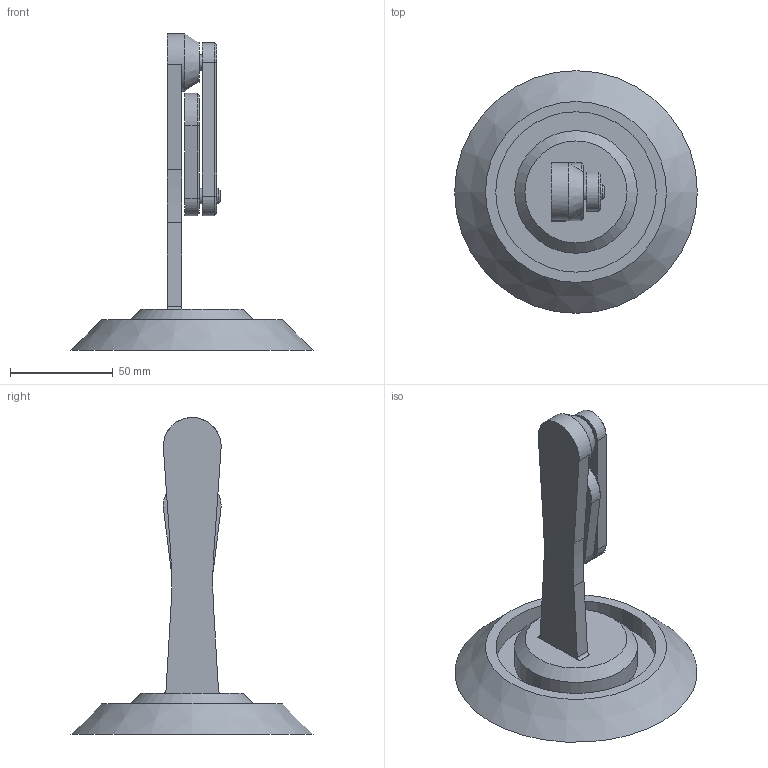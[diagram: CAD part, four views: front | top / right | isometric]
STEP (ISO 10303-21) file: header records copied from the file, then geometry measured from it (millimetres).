
FILE_DESCRIPTION(/* description */ (''),/* implementation_level */ '2;1');
FILE_NAME(/* name */ 'PenduloDoble.step',/* time_stamp */ '2026-10-06T18:05:45+02:00',/* author */ (''),/* organization */ (''),/* preprocessor_version */ 'ST-DEVELOPER v20.2',/* originating_system */ 'Autodesk Translation Framework v15.15.0.0',/* authorisation */ '');
FILE_SCHEMA (('AUTOMOTIVE_DESIGN { 1 0 10303 214 3 1 1 }'));
Length unit declared in the file: millimetre
Products named in the file (1): PenduloDoble
Bounding box: 118 x 118 x 154.1 mm (x, y, z)
Volume: 159452.3 mm3; surface area: 48475.1 mm2
Topology: 6 solids, 6 shells, 76 faces, 151 edges, 97 vertices
Faces by surface type: plane 42, cylinder 26, cone 8
Full cylindrical faces by diameter (mm): 2.1 x2, 2.3 x1, 3.8 x1, 6.1 x2, 7.5 x3, 8.1 x1, 9.5 x2, 13.1 x2, 22.1 x1, 28.1 x1, 59.6 x1, 78 x1
Entity records: 2022 total; most frequent: DIRECTION 368, CARTESIAN_POINT 325, ORIENTED_EDGE 302, EDGE_CURVE 151, AXIS2_PLACEMENT_3D 140, EDGE_LOOP 98, VERTEX_POINT 97, LINE 88
